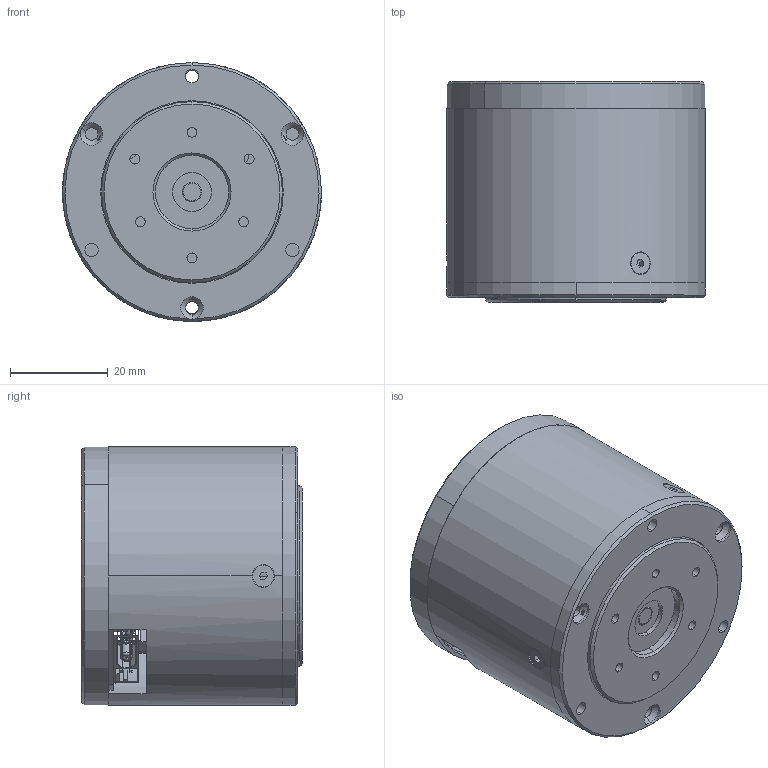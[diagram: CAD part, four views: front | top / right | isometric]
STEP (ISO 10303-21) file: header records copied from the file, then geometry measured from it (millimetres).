
FILE_DESCRIPTION (( 'STEP AP203' ), '1' );
FILE_NAME ('AK45-10双编电机.STEP', '2026-02-04T09:39:13', ( '微软用户' ), ( '微软中国' ), 'SwSTEP 2.0', 'SolidWorks 2020', '' );
FILE_SCHEMA (( 'CONFIG_CONTROL_DESIGN' ));
Length unit declared in the file: millimetre
Products named in the file (1): AK45-10邧晤萇儂
Bounding box: 53 x 45.2 x 53 mm (x, y, z)
Surface area: 20330.9 mm2 (no closed solid volume)
Topology: 0 solids, 39 shells, 313 faces, 1470 edges, 1185 vertices
Faces by surface type: plane 140, cylinder 109, cone 32, torus 18, bspline 13, sphere 1
Entity records: 16836 total; most frequent: CARTESIAN_POINT 5180, DIRECTION 2403, ORIENTED_EDGE 1992, EDGE_CURVE 1467, VERTEX_POINT 1184, VECTOR 853, LINE 853, AXIS2_PLACEMENT_3D 775
